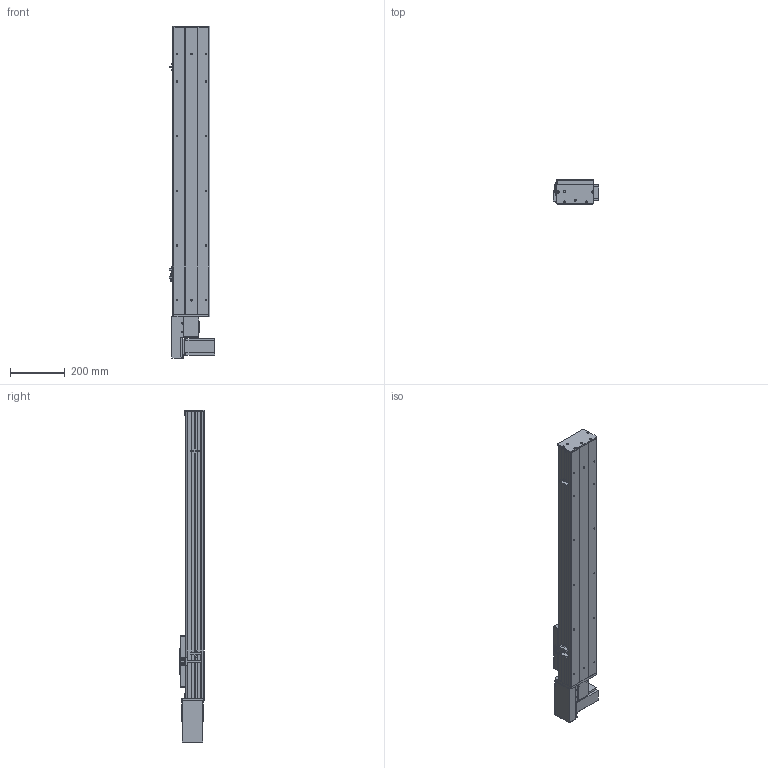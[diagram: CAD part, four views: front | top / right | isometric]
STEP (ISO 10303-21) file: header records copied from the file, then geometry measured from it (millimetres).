
FILE_DESCRIPTION (( 'STEP AP203' ), '1' );
FILE_NAME ('Y135CB-D90-S750-BR-P400W.STEP', '2020-02-18T02:18:03', ( '微软用户' ), ( '微软中国' ), 'SwSTEP 2.0', 'SolidWorks 2017', '' );
FILE_SCHEMA (( 'CONFIG_CONTROL_DESIGN' ));
Length unit declared in the file: millimetre
Products named in the file (18): 135CB--詩湍-CE; Y10B-耜蚾蟀諉啣----; Y100-135俋离換覜ん--; Y俋欶BR----; Y135C-陔俋离換覜結え-; 0B-埴倛裔啣; 5C--俋欶; 0B-源倛裔啣; Y135CB-耜裔; C-雄赽釱--; 0B-萇儂楊擘啣; 135CB---遴掛极.-; Y10B--々湍喘謫眊--666; san松下电机400不带刹车----; 35CB---喘謫眊楊擘啣; Y135CB-D90-S750-BR-P400W; 5CB --掛极耜裔啣-; C-詩湍揤踡え-陔
Assembly tree (21 placements, depth 2):
  Y135CB-D90-S750-BR-P400W
    Y135CB-耜裔
    135CB---遴掛极.-
    35CB---喘謫眊楊擘啣
    Y10B-耜蚾蟀諉啣----
    Y俋欶BR----
    0B-埴倛裔啣
    0B-源倛裔啣
    0B-萇儂楊擘啣
    san松下电机400不带刹车----
    5CB --掛极耜裔啣-  x2
    C-詩湍揤踡え-陔  x2
    135CB--詩湍-CE
    Y100-135俋离換覜ん--  x3
    Y135C-陔俋离換覜結え-
    5C--俋欶
    C-雄赽釱--
    Y10B--々湍喘謫眊--666
Bounding box: 167.5 x 91 x 1214.5 mm (x, y, z)
Volume: 3738017.6 mm3; surface area: 1456720.8 mm2
Topology: 21 solids, 21 shells, 941 faces, 2509 edges, 1662 vertices
Faces by surface type: cylinder 467, plane 458, cone 16
Entity records: 29139 total; most frequent: DIRECTION 4837, CARTESIAN_POINT 4768, ORIENTED_EDGE 4494, EDGE_CURVE 2247, AXIS2_PLACEMENT_3D 1759, VERTEX_POINT 1490, VECTOR 1319, LINE 1319
